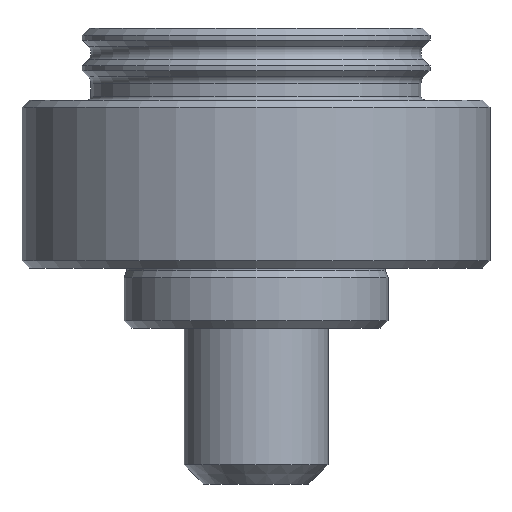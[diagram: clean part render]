
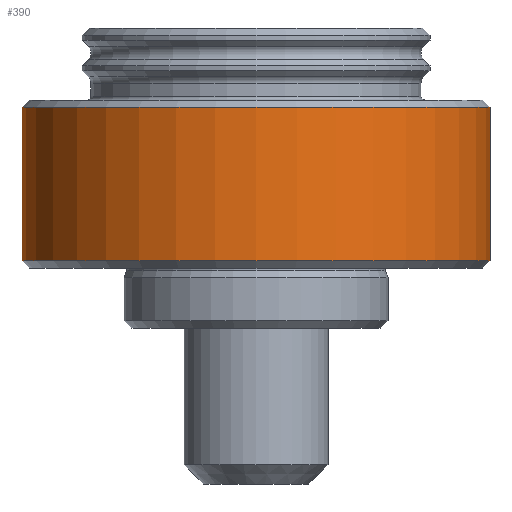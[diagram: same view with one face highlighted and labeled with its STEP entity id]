
A CAD part, front view. The second image highlights one B-rep face of the part: STEP entity #390.
In plain terms, the highlighted cylindrical face has radius 19.5 mm (diameter 39 mm), a full revolution.
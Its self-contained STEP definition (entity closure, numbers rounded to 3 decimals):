
#390=ADVANCED_FACE('',(#761,#763),#765,.T.);
#761=FACE_OUTER_BOUND('',#762,.T.);
#762=EDGE_LOOP('',(#904));
#763=FACE_OUTER_BOUND('',#764,.T.);
#764=EDGE_LOOP('',(#905));
#765=CYLINDRICAL_SURFACE('',#766,19.5);
#766=AXIS2_PLACEMENT_3D('',#767,#768,#769);
#767=CARTESIAN_POINT('',(0.,0.,19.));
#768=DIRECTION('',(0.,0.,1.));
#769=DIRECTION('',(1.,0.,0.));
#904=ORIENTED_EDGE('',*,*,#964,.F.);
#905=ORIENTED_EDGE('',*,*,#962,.T.);
#962=EDGE_CURVE('',#1058,#1058,#1059,.T.);
#964=EDGE_CURVE('',#1062,#1062,#1063,.T.);
#1058=VERTEX_POINT('',#1538);
#1059=CIRCLE('',#1539,19.5);
#1062=VERTEX_POINT('',#1548);
#1063=CIRCLE('',#1549,19.5);
#1538=CARTESIAN_POINT('',(19.5,0.,5.6));
#1539=AXIS2_PLACEMENT_3D('',#1540,#1541,#1542);
#1540=CARTESIAN_POINT('',(0.,0.,5.6));
#1541=DIRECTION('',(0.,0.,1.));
#1542=DIRECTION('',(1.,0.,0.));
#1548=CARTESIAN_POINT('',(19.5,0.,18.4));
#1549=AXIS2_PLACEMENT_3D('',#1550,#1551,#1552);
#1550=CARTESIAN_POINT('',(0.,0.,18.4));
#1551=DIRECTION('',(0.,0.,1.));
#1552=DIRECTION('',(1.,0.,0.));
